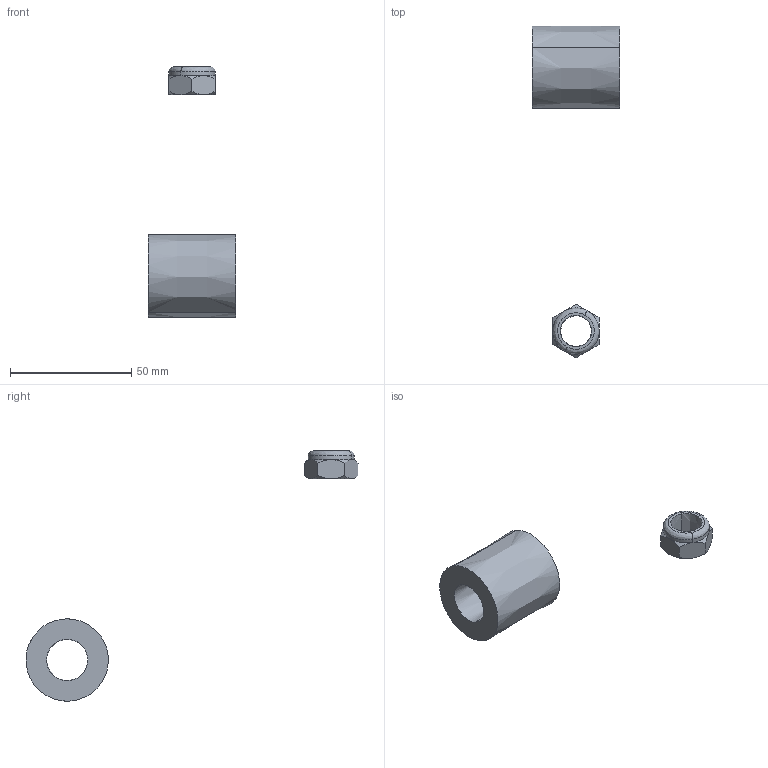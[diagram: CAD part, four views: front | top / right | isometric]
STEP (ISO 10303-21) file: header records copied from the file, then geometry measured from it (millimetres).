
FILE_DESCRIPTION (( 'STEP AP214' ), '1' );
FILE_NAME ('KTU-150WK-GS-60.STEP', '2018-08-30T07:49:32', ( '' ), ( '' ), 'SwSTEP 2.0', 'SolidWorks 2010', '' );
FILE_SCHEMA (( 'AUTOMOTIVE_DESIGN' ));
Length unit declared in the file: millimetre
Products named in the file (1): KTU-150WK-GS-60
Bounding box: 36 x 137.03 x 103.36 mm (x, y, z)
Volume: 26431 mm3; surface area: 8618.5 mm2
Topology: 2 solids, 2 shells, 24 faces, 99 edges, 79 vertices
Faces by surface type: bspline 14, plane 10
Entity records: 3774 total; most frequent: CARTESIAN_POINT 3009, ORIENTED_EDGE 198, EDGE_CURVE 99, B_SPLINE_CURVE_WITH_KNOTS 81, VERTEX_POINT 79, DIRECTION 40, EDGE_LOOP 28, FACE_OUTER_BOUND 24
